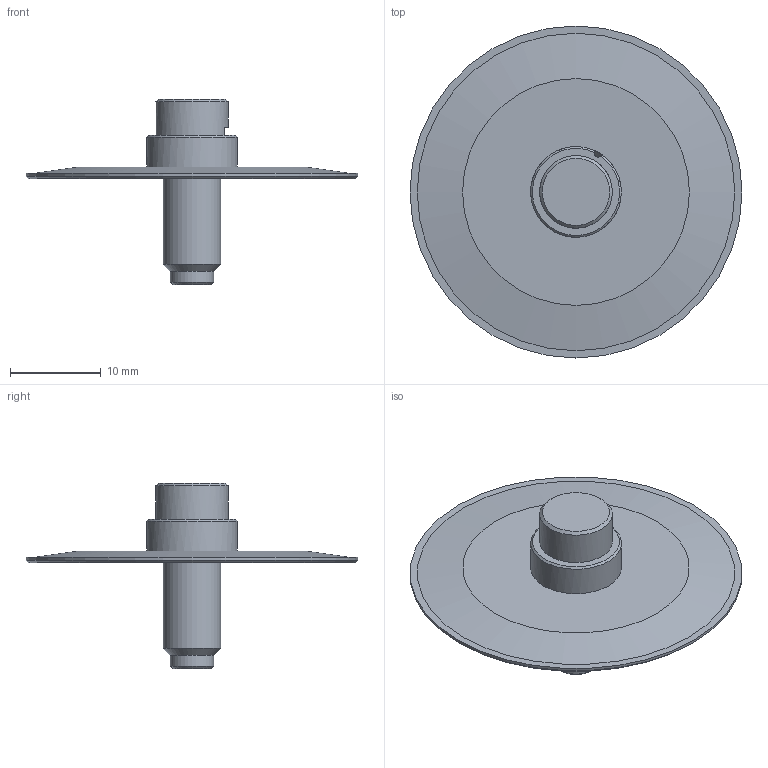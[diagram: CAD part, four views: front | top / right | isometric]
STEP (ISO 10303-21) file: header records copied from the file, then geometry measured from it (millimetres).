
FILE_DESCRIPTION(('Open CASCADE Model'),'2;1');
FILE_NAME('Open CASCADE Shape Model','2026-11-10T21:02:45',('Author'),( 'Open CASCADE'),'Open CASCADE STEP processor 7.9','Open CASCADE 7.9' ,'Unknown');
FILE_SCHEMA(('AUTOMOTIVE_DESIGN { 1 0 10303 214 1 1 1 1 }'));
Length unit declared in the file: millimetre
Products named in the file (1): Open CASCADE STEP translator 7.9 6
Bounding box: 36.6 x 36.6 x 20.5 mm (x, y, z)
Volume: 1719.2 mm3; surface area: 2796.7 mm2
Topology: 1 solids, 1 shells, 26 faces, 52 edges, 33 vertices
Faces by surface type: plane 11, cylinder 9, cone 6
Full cylindrical faces by diameter (mm): 1 x1, 3.15 x1, 4.8 x1, 5.4 x1, 6.35 x1, 8 x1, 10 x1, 13.2 x1, 36.6 x1
Entity records: 1715 total; most frequent: CARTESIAN_POINT 602, DIRECTION 217, ORIENTED_EDGE 104, PCURVE 104, DEFINITIONAL_REPRESENTATION 104, LINE 81, VECTOR 81, AXIS2_PLACEMENT_3D 57
